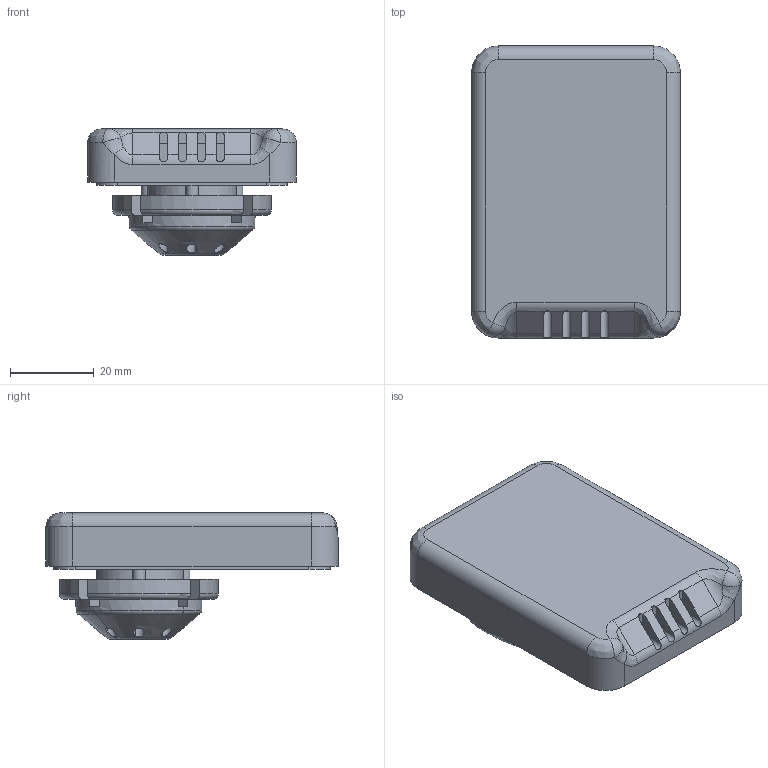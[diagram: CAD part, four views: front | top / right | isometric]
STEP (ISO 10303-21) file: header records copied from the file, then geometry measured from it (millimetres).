
FILE_DESCRIPTION((''),'2;1');
FILE_NAME('SCE-BVK_ASM','2024-09-12T08:17:13',('dougp'),('SAGINAW CONTROL & ENGINEERING'),'CREO PARAMETRIC BY PTC INC, 2021284','CREO PARAMETRIC BY PTC INC, 2021284','');
FILE_SCHEMA(('AUTOMOTIVE_DESIGN { 1 0 10303 214 1 1 1 1 }'));
Length unit declared in the file: inch
Products named in the file (7): DRAIN-VENT; GASKET; CAP; THREADED_INSERT; SCREW; 127521; SCE-BVK_ASM
Assembly tree (6 placements, depth 2):
  SCE-BVK_ASM
    DRAIN-VENT
    GASKET
    CAP
    THREADED_INSERT
    SCREW
    127521
Bounding box: 49.91 x 69.85 x 30.16 mm (x, y, z)
Volume: 42244.5 mm3; surface area: 26301.3 mm2
Topology: 6 solids, 6 shells, 262 faces, 720 edges, 447 vertices
Faces by surface type: plane 108, cylinder 100, bspline 30, cone 14, torus 8, sphere 2
Entity records: 10626 total; most frequent: CARTESIAN_POINT 2680, ORIENTED_EDGE 1400, DIRECTION 1356, EDGE_CURVE 700, AXIS2_PLACEMENT_3D 487, VERTEX_POINT 466, VECTOR 382, LINE 382
